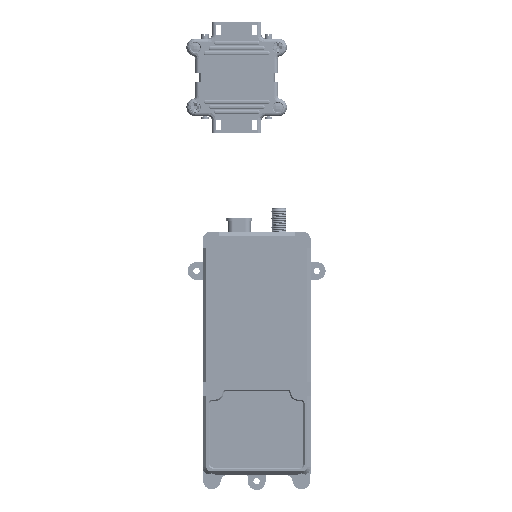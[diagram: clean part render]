
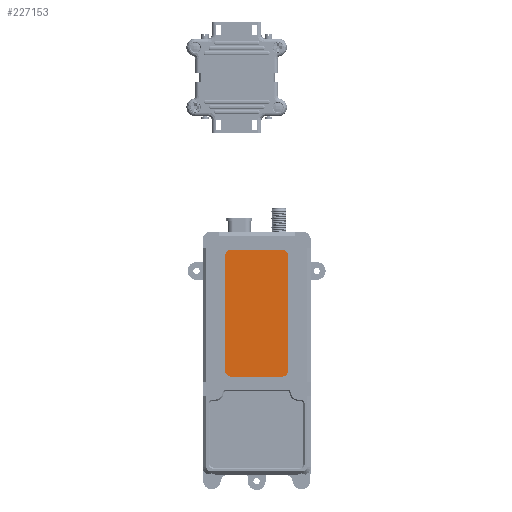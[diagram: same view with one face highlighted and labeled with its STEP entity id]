
A CAD part, front view. The second image highlights one B-rep face of the part: STEP entity #227153.
In plain terms, the highlighted planar face has unit normal (0, -1, 0).
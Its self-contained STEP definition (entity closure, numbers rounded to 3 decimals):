
#10929 = EDGE_CURVE ( 'NONE', #17170, #87032, #165291, .T. ) ;
#13179 = DIRECTION ( 'NONE',  ( -1., 0., 0. ) ) ;
#13336 = DIRECTION ( 'NONE',  ( 0., 0., -1. ) ) ;
#13927 = EDGE_CURVE ( 'NONE', #61446, #17170, #118358, .T. ) ;
#17170 = VERTEX_POINT ( 'NONE', #91395 ) ;
#23674 = CARTESIAN_POINT ( 'NONE',  ( 6.4, -13.1, 13.1 ) ) ;
#25534 = FACE_OUTER_BOUND ( 'NONE', #34573, .T. ) ;
#25966 = DIRECTION ( 'NONE',  ( 0., 0., 1. ) ) ;
#26613 = ORIENTED_EDGE ( 'NONE', *, *, #245325, .T. ) ;
#26618 = AXIS2_PLACEMENT_3D ( 'NONE', #168689, #70897, #185867 ) ;
#26673 = CARTESIAN_POINT ( 'NONE',  ( -15.9, -13.1, 10.4 ) ) ;
#29227 = VECTOR ( 'NONE', #47201, 1000. ) ;
#30060 = CARTESIAN_POINT ( 'NONE',  ( 3.7, -13.1, 13.1 ) ) ;
#30785 = AXIS2_PLACEMENT_3D ( 'NONE', #30060, #167249, #206618 ) ;
#32346 = VECTOR ( 'NONE', #94162, 1000. ) ;
#34573 = EDGE_LOOP ( 'NONE', ( #161312, #26613, #70089, #152973, #84325, #137089, #171667, #168329 ) ) ;
#42220 = VERTEX_POINT ( 'NONE', #82328 ) ;
#47201 = DIRECTION ( 'NONE',  ( 1., 0., 0. ) ) ;
#49982 = CIRCLE ( 'NONE', #184848, 2.7 ) ;
#55296 = EDGE_CURVE ( 'NONE', #187493, #61446, #49982, .T. ) ;
#59686 = VERTEX_POINT ( 'NONE', #193456 ) ;
#61446 = VERTEX_POINT ( 'NONE', #253249 ) ;
#63770 = VECTOR ( 'NONE', #161419, 1000. ) ;
#64843 = CARTESIAN_POINT ( 'NONE',  ( -18.6, -13.1, 13.1 ) ) ;
#67928 = CARTESIAN_POINT ( 'NONE',  ( 3.7, -13.1, 13.1 ) ) ;
#70089 = ORIENTED_EDGE ( 'NONE', *, *, #88991, .T. ) ;
#70897 = DIRECTION ( 'NONE',  ( 0., -1., 0. ) ) ;
#71435 = CARTESIAN_POINT ( 'NONE',  ( -15.9, -13.1, 60.4 ) ) ;
#77617 = EDGE_CURVE ( 'NONE', #42220, #187493, #97405, .T. ) ;
#82328 = CARTESIAN_POINT ( 'NONE',  ( -18.6, -13.1, 57.7 ) ) ;
#82823 = VERTEX_POINT ( 'NONE', #182033 ) ;
#84325 = ORIENTED_EDGE ( 'NONE', *, *, #97516, .T. ) ;
#87032 = VERTEX_POINT ( 'NONE', #23674 ) ;
#88991 = EDGE_CURVE ( 'NONE', #59686, #82823, #173882, .T. ) ;
#91395 = CARTESIAN_POINT ( 'NONE',  ( 3.7, -13.1, 10.4 ) ) ;
#94162 = DIRECTION ( 'NONE',  ( 0., 0., 1. ) ) ;
#96762 = LINE ( 'NONE', #190262, #32346 ) ;
#97405 = LINE ( 'NONE', #200836, #63770 ) ;
#97516 = EDGE_CURVE ( 'NONE', #137569, #42220, #237676, .T. ) ;
#105002 = LINE ( 'NONE', #71435, #246075 ) ;
#109194 = CARTESIAN_POINT ( 'NONE',  ( -15.9, -13.1, 60.4 ) ) ;
#117352 = AXIS2_PLACEMENT_3D ( 'NONE', #164831, #142575, #25966 ) ;
#118358 = LINE ( 'NONE', #26673, #29227 ) ;
#137089 = ORIENTED_EDGE ( 'NONE', *, *, #77617, .T. ) ;
#137569 = VERTEX_POINT ( 'NONE', #109194 ) ;
#142575 = DIRECTION ( 'NONE',  ( 0., -1., 0. ) ) ;
#152973 = ORIENTED_EDGE ( 'NONE', *, *, #246382, .T. ) ;
#161312 = ORIENTED_EDGE ( 'NONE', *, *, #10929, .T. ) ;
#161419 = DIRECTION ( 'NONE',  ( 0., 0., -1. ) ) ;
#164831 = CARTESIAN_POINT ( 'NONE',  ( -15.9, -13.1, 57.7 ) ) ;
#165291 = CIRCLE ( 'NONE', #30785, 2.7 ) ;
#167249 = DIRECTION ( 'NONE',  ( 0., -1., 0. ) ) ;
#168329 = ORIENTED_EDGE ( 'NONE', *, *, #13927, .T. ) ;
#168689 = CARTESIAN_POINT ( 'NONE',  ( 3.7, -13.1, 57.7 ) ) ;
#171667 = ORIENTED_EDGE ( 'NONE', *, *, #55296, .T. ) ;
#173882 = CIRCLE ( 'NONE', #26618, 2.7 ) ;
#182033 = CARTESIAN_POINT ( 'NONE',  ( 3.7, -13.1, 60.4 ) ) ;
#184848 = AXIS2_PLACEMENT_3D ( 'NONE', #227238, #230213, #13336 ) ;
#185867 = DIRECTION ( 'NONE',  ( 0., 0., -1. ) ) ;
#187097 = PLANE ( 'NONE',  #206003 ) ;
#187493 = VERTEX_POINT ( 'NONE', #64843 ) ;
#190262 = CARTESIAN_POINT ( 'NONE',  ( 6.4, -13.1, 13.1 ) ) ;
#193456 = CARTESIAN_POINT ( 'NONE',  ( 6.4, -13.1, 57.7 ) ) ;
#200836 = CARTESIAN_POINT ( 'NONE',  ( -18.6, -13.1, 13.1 ) ) ;
#205096 = DIRECTION ( 'NONE',  ( 0., -1., 0. ) ) ;
#206003 = AXIS2_PLACEMENT_3D ( 'NONE', #67928, #205096, #246261 ) ;
#206618 = DIRECTION ( 'NONE',  ( 0., 0., -1. ) ) ;
#227153 = ADVANCED_FACE ( 'NONE', ( #25534 ), #187097, .T. ) ;
#227238 = CARTESIAN_POINT ( 'NONE',  ( -15.9, -13.1, 13.1 ) ) ;
#230213 = DIRECTION ( 'NONE',  ( 0., -1., 0. ) ) ;
#237676 = CIRCLE ( 'NONE', #117352, 2.7 ) ;
#245325 = EDGE_CURVE ( 'NONE', #87032, #59686, #96762, .T. ) ;
#246075 = VECTOR ( 'NONE', #13179, 1000. ) ;
#246261 = DIRECTION ( 'NONE',  ( 0., 0., -1. ) ) ;
#246382 = EDGE_CURVE ( 'NONE', #82823, #137569, #105002, .T. ) ;
#253249 = CARTESIAN_POINT ( 'NONE',  ( -15.9, -13.1, 10.4 ) ) ;
